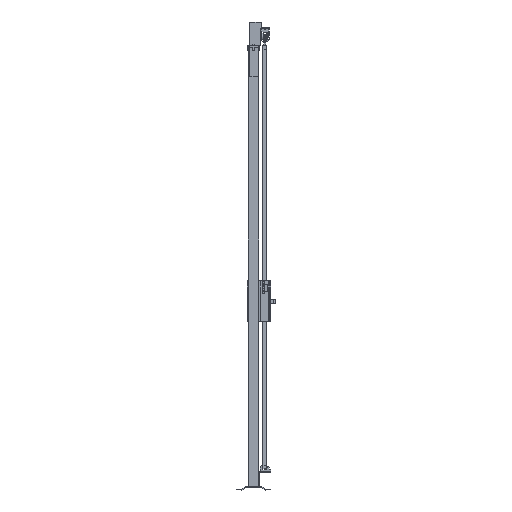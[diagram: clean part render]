
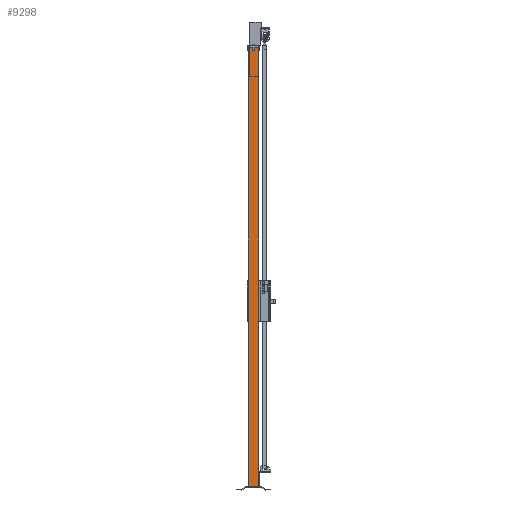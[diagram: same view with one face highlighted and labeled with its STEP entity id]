
A CAD part, left-side view. The second image highlights one B-rep face of the part: STEP entity #9298.
In plain terms, the highlighted planar face has unit normal (-1, 0, 0).
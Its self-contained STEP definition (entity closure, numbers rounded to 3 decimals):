
#1005=FACE_OUTER_BOUND('',#1460,.T.);
#1460=EDGE_LOOP('',(#6898,#6899,#6900,#6901));
#2223=LINE('',#13830,#3494);
#2227=LINE('',#13839,#3498);
#2229=LINE('',#13842,#3500);
#2231=LINE('',#13845,#3502);
#3494=VECTOR('',#10897,1.);
#3498=VECTOR('',#10903,1.);
#3500=VECTOR('',#10907,1.);
#3502=VECTOR('',#10911,1.);
#4516=VERTEX_POINT('',#13827);
#4517=VERTEX_POINT('',#13829);
#4520=VERTEX_POINT('',#13836);
#4521=VERTEX_POINT('',#13838);
#5446=EDGE_CURVE('',#4516,#4517,#2223,.T.);
#5450=EDGE_CURVE('',#4520,#4521,#2227,.T.);
#5452=EDGE_CURVE('',#4517,#4520,#2229,.T.);
#5454=EDGE_CURVE('',#4516,#4521,#2231,.T.);
#6898=ORIENTED_EDGE('',*,*,#5454,.T.);
#6899=ORIENTED_EDGE('',*,*,#5450,.F.);
#6900=ORIENTED_EDGE('',*,*,#5452,.F.);
#6901=ORIENTED_EDGE('',*,*,#5446,.F.);
#8894=PLANE('',#9797);
#9298=ADVANCED_FACE('',(#1005),#8894,.F.);
#9797=AXIS2_PLACEMENT_3D('',#13844,#10909,#10910);
#10897=DIRECTION('',(0.,-1.,0.));
#10903=DIRECTION('',(0.,1.,0.));
#10907=DIRECTION('',(0.,0.,-1.));
#10909=DIRECTION('center_axis',(1.,0.,0.));
#10910=DIRECTION('ref_axis',(0.,0.,-1.));
#10911=DIRECTION('',(0.,0.,-1.));
#13827=CARTESIAN_POINT('',(-30.,30.,2520.));
#13829=CARTESIAN_POINT('',(-30.,-30.,2520.));
#13830=CARTESIAN_POINT('',(-30.,0.,2520.));
#13836=CARTESIAN_POINT('',(-30.,-30.,20.));
#13838=CARTESIAN_POINT('',(-30.,30.,20.));
#13839=CARTESIAN_POINT('',(-30.,0.,20.));
#13842=CARTESIAN_POINT('',(-30.,-30.,1270.));
#13844=CARTESIAN_POINT('Origin',(-30.,0.,
1270.));
#13845=CARTESIAN_POINT('',(-30.,30.,1270.));
